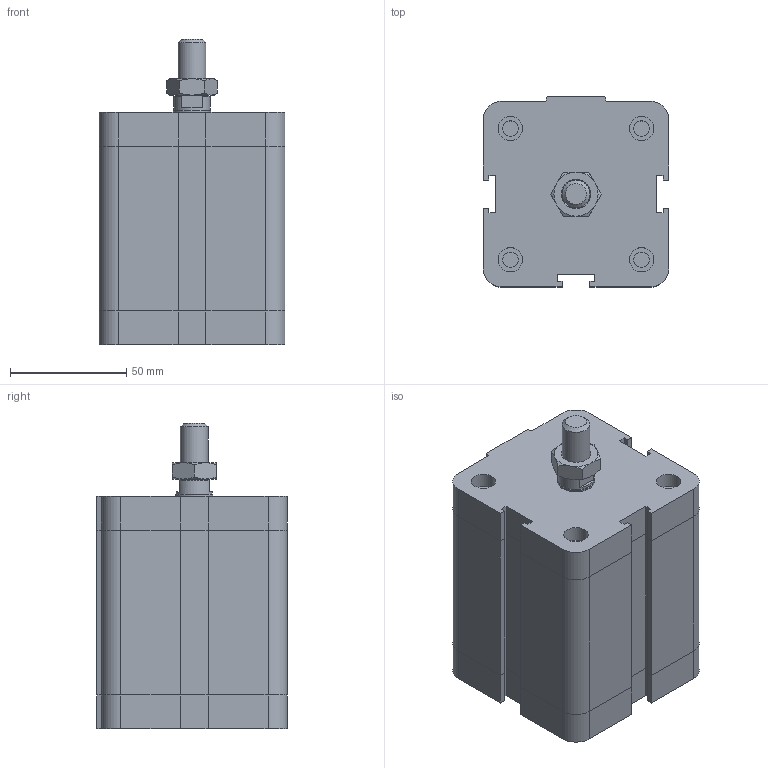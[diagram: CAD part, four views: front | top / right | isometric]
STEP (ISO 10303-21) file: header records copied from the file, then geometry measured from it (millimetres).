
FILE_DESCRIPTION((''),'2;1');
FILE_NAME('I:\Area Tecnica\Disegni\VARIE-3D\Componenti\EUROPE\15##_###_####_02_#\1561_63_0050_02_1.stp','2008-12-19T16:05:52',('rivolro1'),(''),'Autodesk Inventor 2009','Autodesk Inventor 2009','');
FILE_SCHEMA(('AUTOMOTIVE_DESIGN { 1 0 10303 214 1 1 1 1 }'));
Length unit declared in the file: millimetre
Products named in the file (4): 1561_63_0050_02_1; 1561_63_0050_01_1_C; 1561_63_0050_02_1_S; DBFM12
Assembly tree (3 placements, depth 2):
  1561_63_0050_02_1
    1561_63_0050_01_1_C
    1561_63_0050_02_1_S
    DBFM12
Bounding box: 80 x 82 x 131.5 mm (x, y, z)
Volume: 612119.3 mm3; surface area: 63091.1 mm2
Topology: 3 solids, 3 shells, 187 faces, 401 edges, 240 vertices
Faces by surface type: plane 121, bspline 24, cylinder 24, cone 18
Full cylindrical faces by diameter (mm): 6.647 x4, 10.5 x4, 10.8 x1, 12 x1, 15.6 x1, 16 x1
Entity records: 5080 total; most frequent: CARTESIAN_POINT 1096, DIRECTION 758, ORIENTED_EDGE 724, EDGE_CURVE 362, AXIS2_PLACEMENT_3D 254, VECTOR 250, LINE 250, EDGE_LOOP 238
